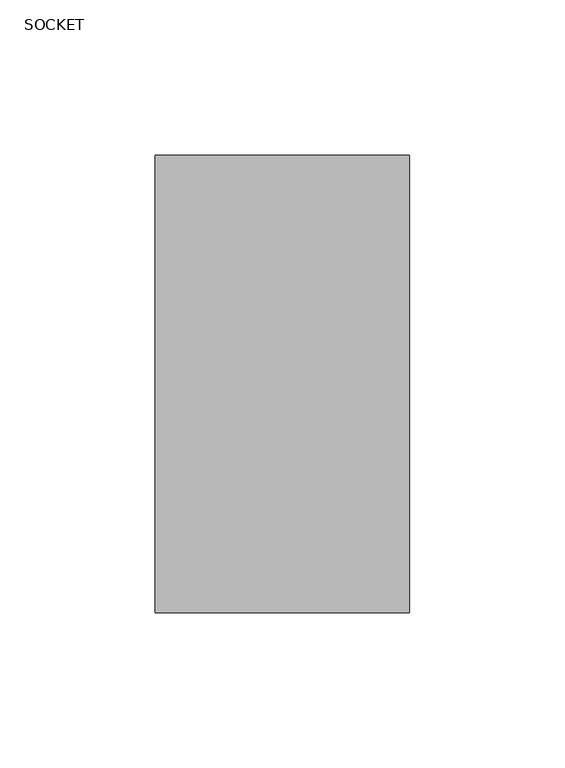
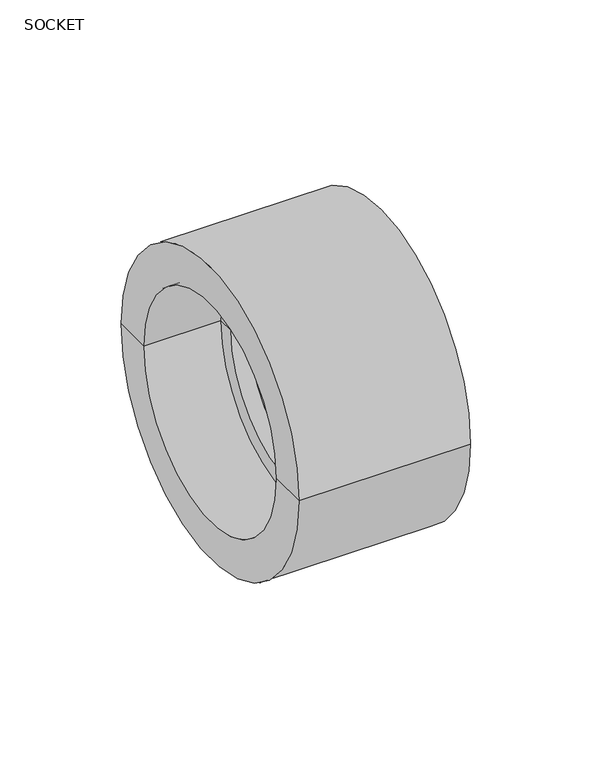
"""IFC4 building model written with IfcOpenShell, lengths in millimetres: pipe fitting geometry, Aquatherm - Coupling Socket : SOCKET."""

from ifc_helpers import new_model, si_unit, frame, origin, place, context, project, spatial, polyline, circle_curve, source, transform, mapped, element, save
from ifc_brep_helpers import plane_surface, cylinder_surface, revolved_surface, advanced_brep


def socket_d3e367c0(model_context):
    return source(origin(), model_context, "Body", "AdvancedBrep", [
        advanced_brep(
        [(-40.894, -54.991, 0.0), (-40.894, 54.991, 0.0), (-40.894, 73.533, 0.0), (-40.894, -73.533, 0.0), (-4.064, -54.991, 0.0), (-4.064, 54.991, 0.0), (-4.064, -46.863, 0.0), (-4.064, 46.863, 0.0), (4.064, -46.863, 0.0), (4.064, 46.863, 0.0), (4.064, -54.991, 0.0), (4.064, 54.991, 0.0), (40.894, -54.991, 0.0), (40.894, 54.991, 0.0), (40.894, -73.533, 0.0), (40.894, 73.533, 0.0)],
        [
            (0, 1, circle_curve(frame((-40.894, 0.0, 0.0), z_axis=(1.0, 0.0, 0.0), x_axis=(0.0, 1.0, 0.0)), 54.991)),
            (1, 2),
            (2, 3, circle_curve(frame((-40.894, 0.0, 0.0), z_axis=(-1.0, 0.0, 0.0), x_axis=(0.0, 1.0, 0.0)), 73.533)),
            (3, 0),
            (1, 0, circle_curve(frame((-40.894, 0.0, 0.0), z_axis=(1.0, 0.0, 0.0), x_axis=(0.0, 1.0, 0.0)), 54.991)),
            (3, 2, circle_curve(frame((-40.894, 0.0, 0.0), z_axis=(-1.0, 0.0, 0.0), x_axis=(0.0, 1.0, 0.0)), 73.533)),
            (4, 5, circle_curve(frame((-4.064, 0.0, 0.0), z_axis=(1.0, 0.0, 0.0), x_axis=(0.0, 1.0, 0.0)), 54.991)),
            (5, 1),
            (0, 4),
            (5, 4, circle_curve(frame((-4.064, 0.0, 0.0), z_axis=(1.0, 0.0, 0.0), x_axis=(0.0, 1.0, 0.0)), 54.991)),
            (6, 7, circle_curve(frame((-4.064, 0.0, 0.0), z_axis=(1.0, 0.0, 0.0), x_axis=(0.0, 1.0, 0.0)), 46.863)),
            (7, 5),
            (4, 6),
            (7, 6, circle_curve(frame((-4.064, 0.0, 0.0), z_axis=(1.0, 0.0, 0.0), x_axis=(0.0, 1.0, 0.0)), 46.863)),
            (8, 9, circle_curve(frame((4.064, 0.0, 0.0), z_axis=(1.0, 0.0, 0.0), x_axis=(0.0, 1.0, 0.0)), 46.863)),
            (9, 7),
            (6, 8),
            (9, 8, circle_curve(frame((4.064, 0.0, 0.0), z_axis=(1.0, 0.0, 0.0), x_axis=(0.0, 1.0, 0.0)), 46.863)),
            (10, 11, circle_curve(frame((4.064, 0.0, 0.0), z_axis=(1.0, 0.0, 0.0), x_axis=(0.0, 1.0, 0.0)), 54.991)),
            (11, 9),
            (8, 10),
            (11, 10, circle_curve(frame((4.064, 0.0, 0.0), z_axis=(1.0, 0.0, 0.0), x_axis=(0.0, 1.0, 0.0)), 54.991)),
            (12, 13, circle_curve(frame((40.894, 0.0, 0.0), z_axis=(1.0, 0.0, 0.0), x_axis=(0.0, 1.0, 0.0)), 54.991)),
            (13, 11),
            (10, 12),
            (13, 12, circle_curve(frame((40.894, 0.0, 0.0), z_axis=(1.0, 0.0, 0.0), x_axis=(0.0, 1.0, 0.0)), 54.991)),
            (14, 15, circle_curve(frame((40.894, 0.0, 0.0), z_axis=(1.0, 0.0, 0.0), x_axis=(0.0, 1.0, 0.0)), 73.533)),
            (15, 13),
            (12, 14),
            (15, 14, circle_curve(frame((40.894, 0.0, 0.0), z_axis=(1.0, 0.0, 0.0), x_axis=(0.0, 1.0, 0.0)), 73.533)),
            (2, 15),
            (14, 3),
        ],
        [
            plane_surface(frame((-40.894, 0.0, 0.0), z_axis=(-1.0, 0.0, 0.0), x_axis=(0.0, 1.0, 0.0))),
            revolved_surface(polyline([(-40.894, 54.991, 0.0), (-4.064, 54.991, 0.0)]), (-57.1924022, 0.0, 0.0), (-1.0, 0.0, 0.0)),
            plane_surface(frame((-4.064, 0.0, 0.0), z_axis=(-1.0, 0.0, 0.0), x_axis=(0.0, 1.0, 0.0))),
            revolved_surface(polyline([(-4.064, 46.863, 0.0), (4.064, 46.863, 0.0)]), (-57.1924022, 0.0, 0.0), (-1.0, 0.0, 0.0)),
            plane_surface(frame((4.064, 0.0, 0.0), z_axis=(1.0, 0.0, 0.0), x_axis=(0.0, 1.0, 0.0))),
            revolved_surface(polyline([(4.064, 54.991, 0.0), (40.894, 54.991, 0.0)]), (-57.1924022, 0.0, 0.0), (-1.0, 0.0, 0.0)),
            plane_surface(frame((40.894, 0.0, 0.0), z_axis=(1.0, 0.0, 0.0), x_axis=(0.0, 1.0, 0.0))),
            cylinder_surface(frame((-57.1924022, 0.0, 0.0), z_axis=(-1.0, 0.0, 0.0), x_axis=(0.0, 1.0, 0.0)), 73.533),
        ],
        [
            (0, [[1, 2, 3, 4]]),
            (0, [[5, -4, 6, -2]]),
            (1, [[7, 8, -1, 9]]),
            (1, [[10, -9, -5, -8]]),
            (2, [[11, 12, -7, 13]]),
            (2, [[14, -13, -10, -12]]),
            (3, [[15, 16, -11, 17]]),
            (3, [[18, -17, -14, -16]]),
            (4, [[19, 20, -15, 21]]),
            (4, [[22, -21, -18, -20]]),
            (5, [[23, 24, -19, 25]]),
            (5, [[26, -25, -22, -24]]),
            (6, [[27, 28, -23, 29]]),
            (6, [[30, -29, -26, -28]]),
            (7, [[-3, 31, -27, 32]]),
            (7, [[-6, -32, -30, -31]]),
        ],
    ),
    ])


if __name__ == "__main__":
    model = new_model("IFC4")
    model_context = context("Model", 3, world=origin())
    ifc_project = project(units=[si_unit("LENGTHUNIT", "METRE", prefix="MILLI")], contexts=[model_context])
    site = spatial("IfcSite", under=ifc_project)
    building = spatial("IfcBuilding", under=site)
    placement = place(None, origin())
    ifc_socket_shape = socket_d3e367c0(model_context)
    element("IfcPipeFitting", 1, ObjectType="Aquatherm - Coupling Socket : SOCKET", at=placement, inside=building, context=model_context, shape_type="MappedRepresentation", body=[
        mapped(ifc_socket_shape, transform((0.0, 0.0, 0.0), x_axis=(1.0, 0.0, 0.0), y_axis=(0.0, 1.0, 0.0), z_axis=(0.0, 0.0, 1.0))),
    ])
    save(model, "model.ifc")
